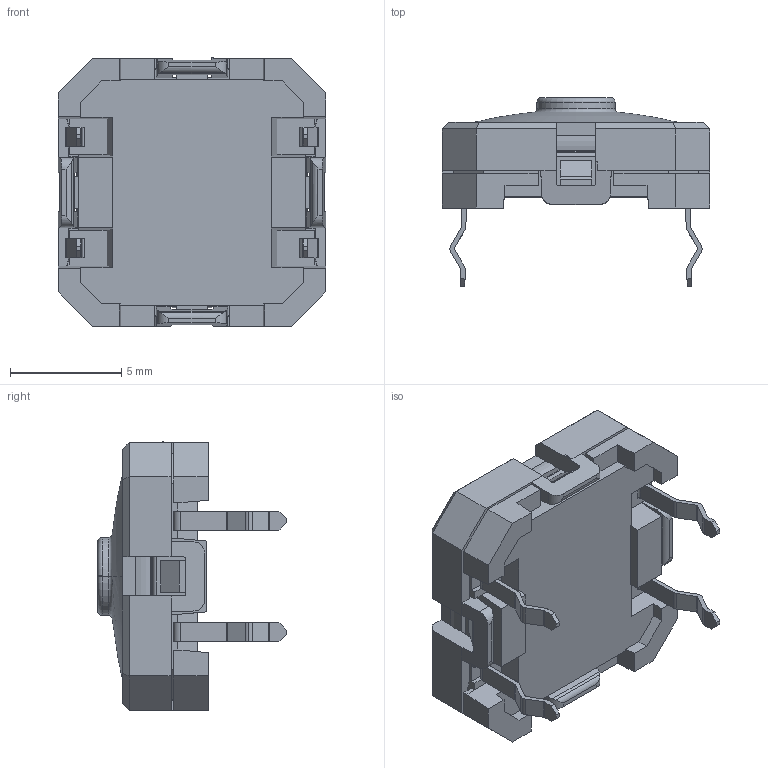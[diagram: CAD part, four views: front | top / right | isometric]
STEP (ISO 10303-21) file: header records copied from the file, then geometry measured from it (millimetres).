
FILE_DESCRIPTION(('STEP AP242'),'1');
FILE_NAME('2719097.stp','2026-09-14T23:53:30',('TraceParts'),('TraceParts S.A.S.'),'Spatial InterOp 3D',' ',' ');
FILE_SCHEMA(('AP242_MANAGED_MODEL_BASED_3D_ENGINEERING_MIM_LF {1 0 10303 442 1 1 4}'));
Length unit declared in the file: millimetre
Products named in the file (1): 1
Bounding box: 12 x 8.46 x 12.04 mm (x, y, z)
Volume: 462.1 mm3; surface area: 681.9 mm2
Topology: 1 solids, 1 shells, 446 faces, 1270 edges, 820 vertices
Faces by surface type: plane 285, cylinder 111, cone 40, torus 8, sphere 2
Entity records: 14611 total; most frequent: CARTESIAN_POINT 3018, ORIENTED_EDGE 2538, DIRECTION 2273, EDGE_CURVE 1269, LINE 923, VECTOR 923, VERTEX_POINT 820, AXIS2_PLACEMENT_3D 675
